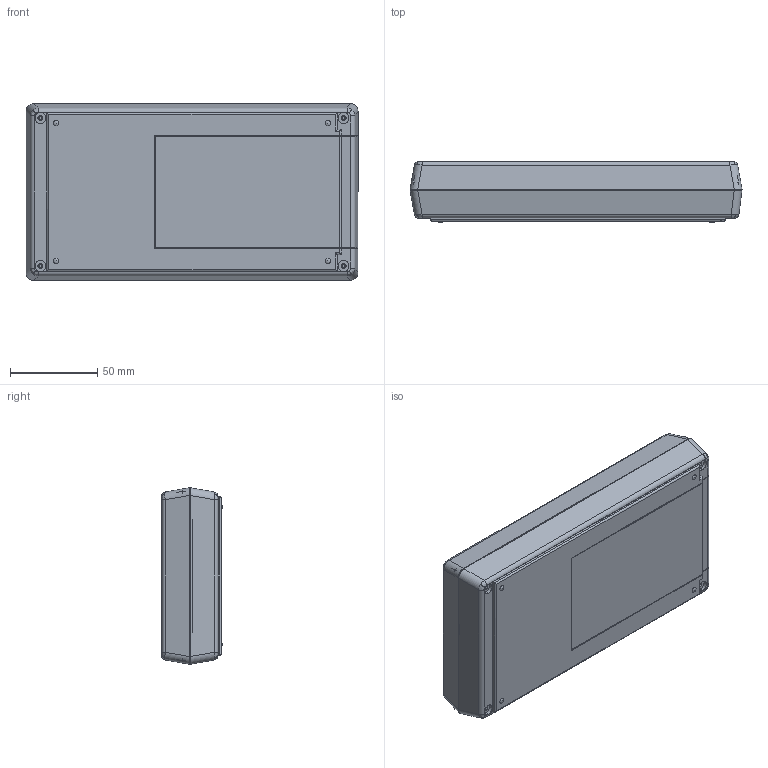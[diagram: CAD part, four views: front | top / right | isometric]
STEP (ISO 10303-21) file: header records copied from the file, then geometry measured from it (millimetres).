
FILE_DESCRIPTION (( 'STEP AP214' ), '1' );
FILE_NAME ('101-42-NO-R.STEP', '2019-11-30T23:58:04', ( 'Rudy' ), ( '' ), 'SwSTEP 2.0', 'SolidWorks 2014', '' );
FILE_SCHEMA (( 'AUTOMOTIVE_DESIGN' ));
Length unit declared in the file: millimetre
Products named in the file (3): 100-04-LCD Top; 100-02 BOT-NO BAT; 101-42-NO-R
Assembly tree (2 placements, depth 2):
  101-42-NO-R
    100-02 BOT-NO BAT
    100-04-LCD Top
Bounding box: 190.6 x 34.92 x 101.4 mm (x, y, z)
Volume: 111704.9 mm3; surface area: 113389.1 mm2
Topology: 2 solids, 2 shells, 447 faces, 1152 edges, 714 vertices
Faces by surface type: plane 202, cylinder 163, bspline 44, cone 34, sphere 4
Entity records: 14957 total; most frequent: CARTESIAN_POINT 4717, ORIENTED_EDGE 2232, DIRECTION 1950, EDGE_CURVE 1116, VERTEX_POINT 706, AXIS2_PLACEMENT_3D 662, VECTOR 626, LINE 626
